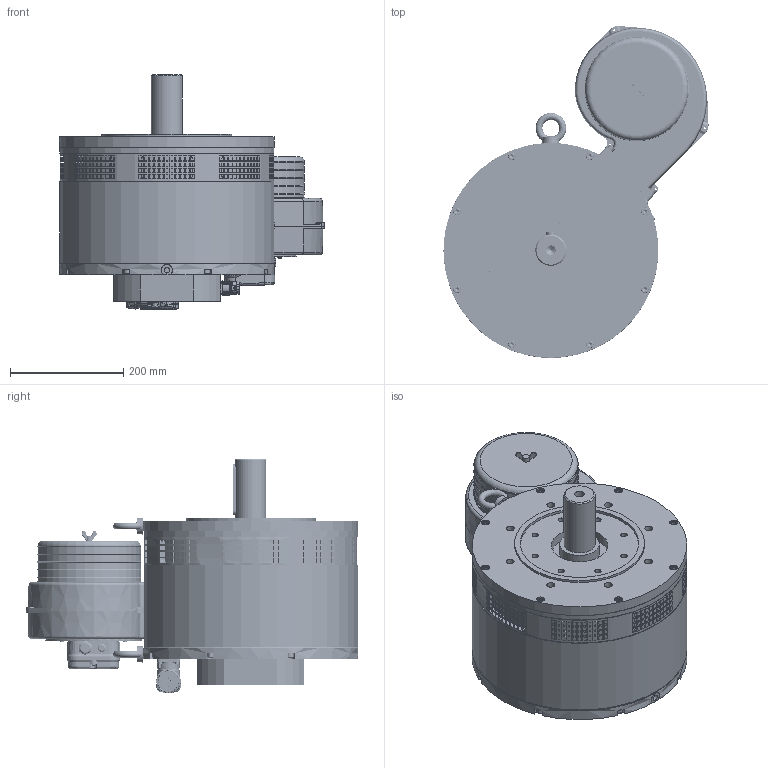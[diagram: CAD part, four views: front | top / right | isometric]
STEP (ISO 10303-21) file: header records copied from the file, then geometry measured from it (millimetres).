
FILE_DESCRIPTION(/* description */ (''),/* implementation_level */ '2;1');
FILE_NAME(/* name */ 'C:\Users\Public\Documents\Autodesk\Inventor LT 2014\Workspace\Motori Sito WEB\TG_9\STEP_DAF_9x\DAF_91_x099.stp',/* time_stamp */ '2021-04-07T16:00:51+02:00',/* author */ ('marcor'),/* organization */ (''),/* preprocessor_version */ 'ST-DEVELOPER v15.2',/* originating_system */ 'Autodesk Inventor LT ',/* authorisation */ '');
FILE_SCHEMA (('AUTOMOTIVE_DESIGN { 1 0 10303 214 3 1 1 }'));
Length unit declared in the file: millimetre
Products named in the file (1): DAF_91_x099
Bounding box: 468.81 x 587.06 x 415.55 mm (x, y, z)
Volume: 31373450.4 mm3; surface area: 1869946.4 mm2
Topology: 35 solids, 50 shells, 4827 faces, 12619 edges, 8189 vertices
Faces by surface type: plane 2631, cylinder 1440, cone 427, torus 188, bspline 120, sphere 21
Full cylindrical faces by diameter (mm): 1.431 x12, 2 x98, 2.224 x3, 2.5 x3, 2.7 x3, 2.88 x4, 3.2 x1, 3.242 x4, 3.5 x1, 3.6 x5, 4 x9, 4.3 x1, 4.8 x4, 4.917 x4, 5.4 x1, 6 x4, 6.2 x2, 6.3 x2, 6.5 x8, 6.647 x16, 7 x8, 8 x19, 8.5 x1, 9 x16, 9.853 x2, 10 x8, 10.106 x3, 11 x12, 12 x6, 13 x16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
Entity records: 157515 total; most frequent: CARTESIAN_POINT 37961, DIRECTION 24548, ORIENTED_EDGE 23626, EDGE_CURVE 11813, AXIS2_PLACEMENT_3D 9300, VERTEX_POINT 8020, EDGE_LOOP 6275, LINE 5948
